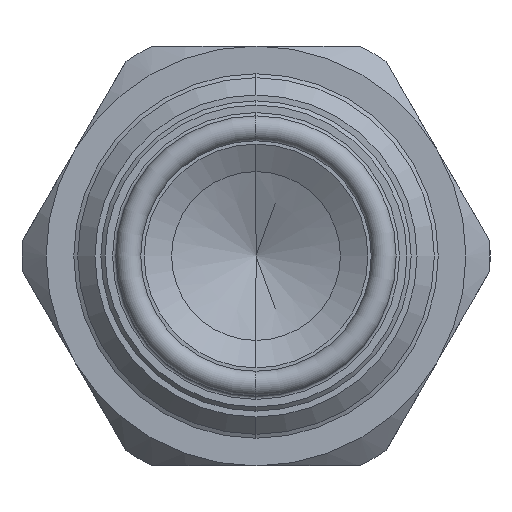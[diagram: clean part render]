
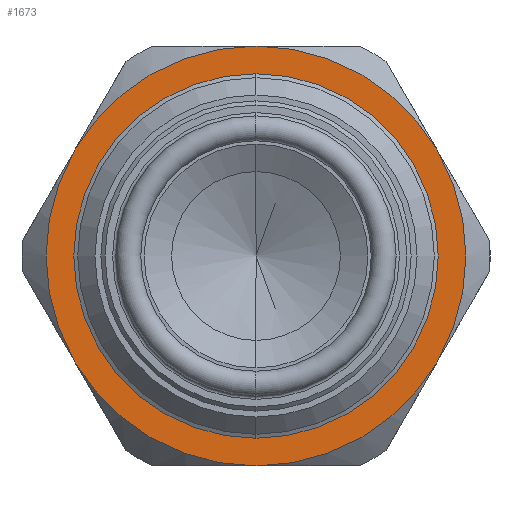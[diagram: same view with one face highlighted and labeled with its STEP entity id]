
A CAD part, left-side view. The second image highlights one B-rep face of the part: STEP entity #1673.
In plain terms, the highlighted planar face has unit normal (-1, 0, 0).
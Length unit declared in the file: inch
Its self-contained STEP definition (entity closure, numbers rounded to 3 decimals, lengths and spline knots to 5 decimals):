
#125 = EDGE_CURVE ( 'NONE', #7921, #7487, #3644, .T. ) ;
#273 = ORIENTED_EDGE ( 'NONE', *, *, #1610, .T. ) ;
#283 = ORIENTED_EDGE ( 'NONE', *, *, #14414, .T. ) ;
#323 = ORIENTED_EDGE ( 'NONE', *, *, #16382, .T. ) ;
#592 = EDGE_CURVE ( 'NONE', #12596, #1213, #7297, .T. ) ;
#652 = VERTEX_POINT ( 'NONE', #15635 ) ;
#748 = CARTESIAN_POINT ( 'NONE',  ( 0.7495, 0., 0. ) ) ;
#784 = CARTESIAN_POINT ( 'NONE',  ( 0.7495, 0., -0.5 ) ) ;
#1109 = CARTESIAN_POINT ( 'NONE',  ( 0.7495, 0.43301, 0.25 ) ) ;
#1146 = CIRCLE ( 'NONE', #5198, 0.5 ) ;
#1207 = CIRCLE ( 'NONE', #9857, 0.5 ) ;
#1213 = VERTEX_POINT ( 'NONE', #1109 ) ;
#1350 = AXIS2_PLACEMENT_3D ( 'NONE', #12792, #9223, #6428 ) ;
#1406 = AXIS2_PLACEMENT_3D ( 'NONE', #748, #11078, #13787 ) ;
#1610 = EDGE_CURVE ( 'NONE', #12148, #12596, #1146, .T. ) ;
#1667 = CARTESIAN_POINT ( 'NONE',  ( 0.7495, 0., 0. ) ) ;
#1673 = ADVANCED_FACE ( 'NONE', ( #8359, #16167 ), #14892, .T. ) ;
#1928 = DIRECTION ( 'NONE',  ( -1., 0., 0. ) ) ;
#2094 = EDGE_LOOP ( 'NONE', ( #283, #273, #12782, #323, #16434, #4976 ) ) ;
#2219 = CIRCLE ( 'NONE', #6010, 0.5 ) ;
#3644 = CIRCLE ( 'NONE', #11237, 0.5 ) ;
#4179 = DIRECTION ( 'NONE',  ( -1., 0., 0. ) ) ;
#4479 = DIRECTION ( 'NONE',  ( 0., 0., 1. ) ) ;
#4928 = CARTESIAN_POINT ( 'NONE',  ( 0.7495, 0., 0. ) ) ;
#4976 = ORIENTED_EDGE ( 'NONE', *, *, #125, .T. ) ;
#5198 = AXIS2_PLACEMENT_3D ( 'NONE', #9464, #6933, #9560 ) ;
#5603 = EDGE_LOOP ( 'NONE', ( #6574, #9919 ) ) ;
#5826 = CARTESIAN_POINT ( 'NONE',  ( 0.7495, 0., 0. ) ) ;
#6010 = AXIS2_PLACEMENT_3D ( 'NONE', #5826, #1928, #4479 ) ;
#6428 = DIRECTION ( 'NONE',  ( 0., 0., 1. ) ) ;
#6574 = ORIENTED_EDGE ( 'NONE', *, *, #10009, .F. ) ;
#6806 = CIRCLE ( 'NONE', #16550, 0.3835 ) ;
#6933 = DIRECTION ( 'NONE',  ( -1., 0., 0. ) ) ;
#7238 = DIRECTION ( 'NONE',  ( -1., 0., 0. ) ) ;
#7297 = CIRCLE ( 'NONE', #13509, 0.5 ) ;
#7404 = CARTESIAN_POINT ( 'NONE',  ( 0.7495, 0., 0. ) ) ;
#7487 = VERTEX_POINT ( 'NONE', #12330 ) ;
#7921 = VERTEX_POINT ( 'NONE', #784 ) ;
#8259 = CARTESIAN_POINT ( 'NONE',  ( 0.7495, 0., -0.3835 ) ) ;
#8359 = FACE_OUTER_BOUND ( 'NONE', #2094, .T. ) ;
#8856 = DIRECTION ( 'NONE',  ( 0., 0., 1. ) ) ;
#9026 = CARTESIAN_POINT ( 'NONE',  ( 0.7495, 0., 0. ) ) ;
#9223 = DIRECTION ( 'NONE',  ( -1., 0., 0. ) ) ;
#9464 = CARTESIAN_POINT ( 'NONE',  ( 0.7495, 0., 0. ) ) ;
#9560 = DIRECTION ( 'NONE',  ( 0., 0., 1. ) ) ;
#9850 = EDGE_CURVE ( 'NONE', #12193, #11539, #6806, .T. ) ;
#9857 = AXIS2_PLACEMENT_3D ( 'NONE', #1667, #14629, #14803 ) ;
#9919 = ORIENTED_EDGE ( 'NONE', *, *, #9850, .F. ) ;
#10009 = EDGE_CURVE ( 'NONE', #11539, #12193, #13574, .T. ) ;
#10086 = DIRECTION ( 'NONE',  ( -1., 0., 0. ) ) ;
#10462 = EDGE_CURVE ( 'NONE', #652, #7921, #1207, .T. ) ;
#11078 = DIRECTION ( 'NONE',  ( -1., 0., 0. ) ) ;
#11237 = AXIS2_PLACEMENT_3D ( 'NONE', #4928, #10086, #14064 ) ;
#11539 = VERTEX_POINT ( 'NONE', #14753 ) ;
#12076 = CARTESIAN_POINT ( 'NONE',  ( 0.7495, -0.43301, 0.25 ) ) ;
#12148 = VERTEX_POINT ( 'NONE', #12076 ) ;
#12193 = VERTEX_POINT ( 'NONE', #8259 ) ;
#12330 = CARTESIAN_POINT ( 'NONE',  ( 0.7495, -0.43301, -0.25 ) ) ;
#12596 = VERTEX_POINT ( 'NONE', #16299 ) ;
#12782 = ORIENTED_EDGE ( 'NONE', *, *, #592, .T. ) ;
#12792 = CARTESIAN_POINT ( 'NONE',  ( 0.7495, 0., 0. ) ) ;
#13337 = CARTESIAN_POINT ( 'NONE',  ( 0.7495, 0., 0. ) ) ;
#13509 = AXIS2_PLACEMENT_3D ( 'NONE', #9026, #14206, #8856 ) ;
#13574 = CIRCLE ( 'NONE', #15463, 0.3835 ) ;
#13753 = DIRECTION ( 'NONE',  ( 0., 0., 1. ) ) ;
#13787 = DIRECTION ( 'NONE',  ( 0., 0., 1. ) ) ;
#14064 = DIRECTION ( 'NONE',  ( 0., 0., 1. ) ) ;
#14206 = DIRECTION ( 'NONE',  ( -1., 0., 0. ) ) ;
#14414 = EDGE_CURVE ( 'NONE', #7487, #12148, #2219, .T. ) ;
#14629 = DIRECTION ( 'NONE',  ( -1., 0., 0. ) ) ;
#14698 = DIRECTION ( 'NONE',  ( 0., 0., 1. ) ) ;
#14753 = CARTESIAN_POINT ( 'NONE',  ( 0.7495, 0., 0.3835 ) ) ;
#14803 = DIRECTION ( 'NONE',  ( 0., 0., 1. ) ) ;
#14892 = PLANE ( 'NONE',  #1406 ) ;
#15463 = AXIS2_PLACEMENT_3D ( 'NONE', #7404, #7238, #13753 ) ;
#15635 = CARTESIAN_POINT ( 'NONE',  ( 0.7495, 0.43301, -0.25 ) ) ;
#16167 = FACE_BOUND ( 'NONE', #5603, .T. ) ;
#16299 = CARTESIAN_POINT ( 'NONE',  ( 0.7495, 0., 0.5 ) ) ;
#16382 = EDGE_CURVE ( 'NONE', #1213, #652, #16519, .T. ) ;
#16434 = ORIENTED_EDGE ( 'NONE', *, *, #10462, .T. ) ;
#16519 = CIRCLE ( 'NONE', #1350, 0.5 ) ;
#16550 = AXIS2_PLACEMENT_3D ( 'NONE', #13337, #4179, #14698 ) ;
